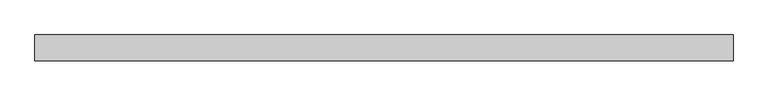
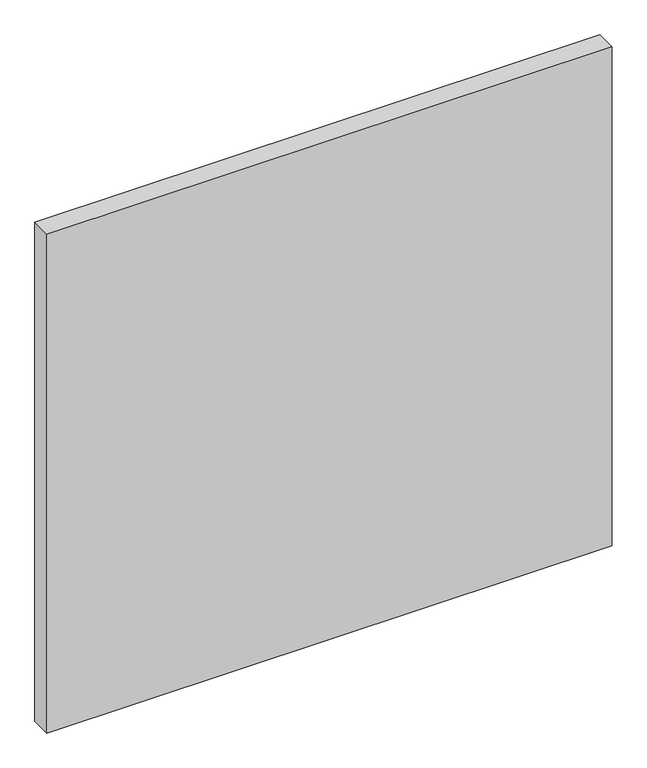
"""IFC4 building model written with IfcOpenShell, lengths in millimetres: plate geometry, Panneau système : Vitré."""

from ifc_helpers import new_model, si_unit, origin, origin_with_axes, place, context, project, spatial, polyline, outline, extrude, source, transform, mapped, element, save


def plate_9c318043(model_context):
    return source(origin(), model_context, "Body", "SweptSolid", [
        extrude(outline(polyline([(544.1849144, -20.0), (-544.1849144, -20.0), (-544.1849144, 20.0), (544.1849144, 20.0), (544.1849144, -20.0)])), origin_with_axes(), (0.0, 0.0, 1.0), 1015.36452),
    ])


if __name__ == "__main__":
    model = new_model("IFC4")
    model_context = context("Model", 3, world=origin())
    ifc_project = project(units=[si_unit("LENGTHUNIT", "METRE", prefix="MILLI")], contexts=[model_context])
    site = spatial("IfcSite", under=ifc_project)
    building = spatial("IfcBuilding", under=site)
    placement = place(None, origin())
    plate_shape = plate_9c318043(model_context)
    element("IfcPlate", 1, ObjectType="Panneau système : Vitré", at=placement, inside=building, context=model_context, shape_type="MappedRepresentation", body=[
        mapped(plate_shape, transform((0.0, 0.0, 0.0), x_axis=(1.0, 0.0, 0.0), y_axis=(0.0, 1.0, 0.0), z_axis=(0.0, 0.0, 1.0))),
    ])
    save(model, "model.ifc")
